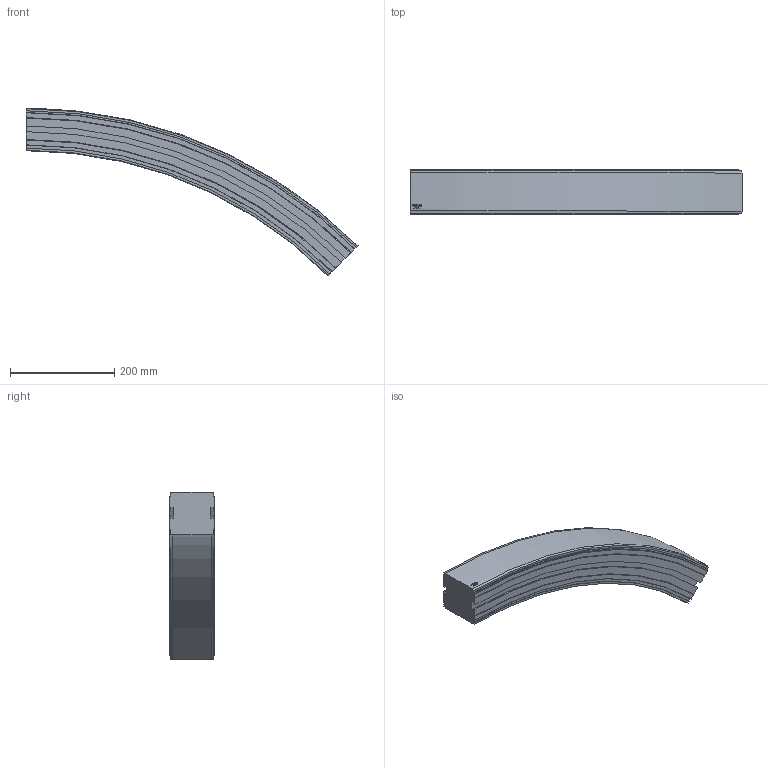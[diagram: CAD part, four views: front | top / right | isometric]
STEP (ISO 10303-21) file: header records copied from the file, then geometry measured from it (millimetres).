
FILE_DESCRIPTION((''),'2;1');
FILE_NAME('C:\Vault Klient\Projekt\Koncept konstruktion\Serie 830 Balk\830-5660_DOWN.stp','2009-11-27T10:58:25',('Mathias'),(''),'Autodesk Inventor 2010','Autodesk Inventor 2010','');
FILE_SCHEMA(('AUTOMOTIVE_DESIGN { 1 0 10303 214 1 1 1 1 }'));
Length unit declared in the file: millimetre
Products named in the file (1): 830-5660_DOWN
Bounding box: 636.04 x 86 x 321.09 mm (x, y, z)
Volume: 4483101.4 mm3; surface area: 288960.8 mm2
Topology: 1 solids, 1 shells, 93 faces, 258 edges, 172 vertices
Faces by surface type: plane 40, cylinder 23, bspline 14, cone 12, torus 4
Entity records: 3464 total; most frequent: CARTESIAN_POINT 1029, ORIENTED_EDGE 516, DIRECTION 472, EDGE_CURVE 258, VERTEX_POINT 172, AXIS2_PLACEMENT_3D 162, VECTOR 148, LINE 148
